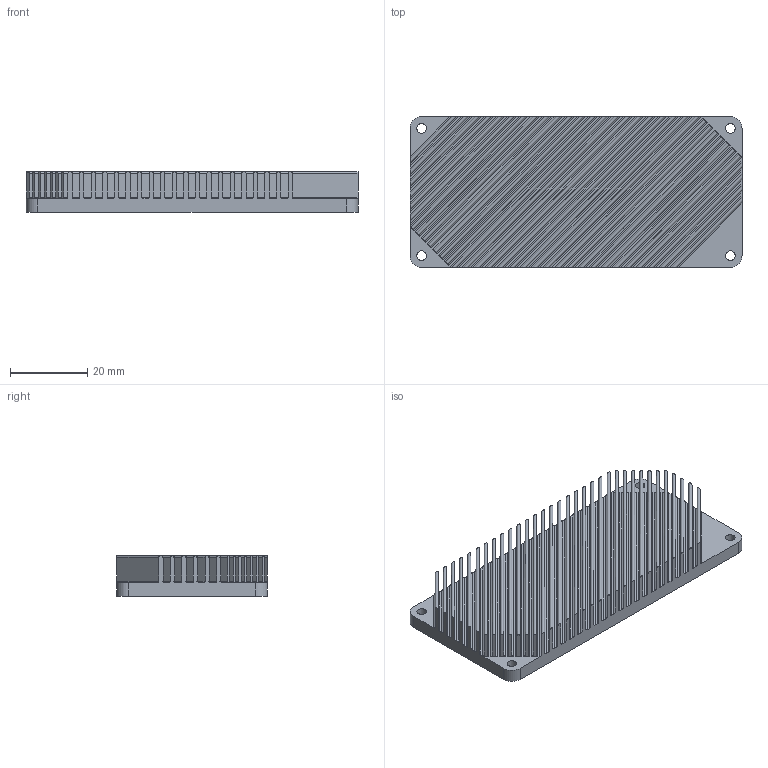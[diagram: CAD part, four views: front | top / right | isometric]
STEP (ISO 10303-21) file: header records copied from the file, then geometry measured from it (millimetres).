
FILE_DESCRIPTION(/* description */ ('STEP AP242','CAx-IF Rec.Pracs.---Representation and Presentation of Product Manufacturing Information (PMI)---4.0---2014-10-13','CAx-IF Rec.Pracs.---3D Tessellated Geometry---0.4---2014-09-14','2;1'),/* implementation_level */ '2;1');
FILE_NAME(/* name */ '68406c56ef194a57c2d84537',/* time_stamp */ '2025-06-04T15:55:03Z',/* author */ (''),/* organization */ (''),/* preprocessor_version */ 'ST-DEVELOPER v20',/* originating_system */ 'ONSHAPE BY PTC INC, 1.198',/* authorisation */ ' ');
FILE_SCHEMA (('AP242_MANAGED_MODEL_BASED_3D_ENGINEERING_MIM_LF { 1 0 10303 442 1 1 4 }'));
Length unit declared in the file: metre
Products named in the file (1): Part 1
Bounding box: 86 x 39 x 10.5 mm (x, y, z)
Volume: 19730.7 mm3; surface area: 27337.3 mm2
Topology: 1 solids, 1 shells, 213 faces, 633 edges, 422 vertices
Faces by surface type: cylinder 107, plane 106
Full cylindrical faces by diameter (mm): 2.5 x4
Entity records: 7220 total; most frequent: DIRECTION 1272, CARTESIAN_POINT 1265, ORIENTED_EDGE 1258, EDGE_CURVE 629, AXIS2_PLACEMENT_3D 429, VERTEX_POINT 422, LINE 414, VECTOR 414
